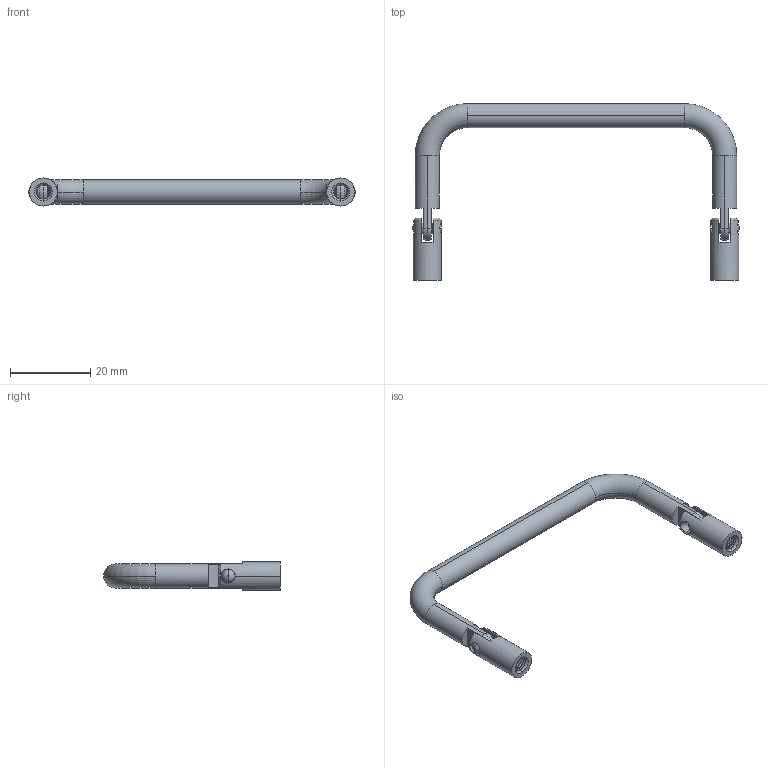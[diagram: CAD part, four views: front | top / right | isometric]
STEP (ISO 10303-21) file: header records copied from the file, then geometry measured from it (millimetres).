
FILE_DESCRIPTION (( 'STEP AP203' ), '1' );
FILE_NAME ('XG01-001-74.STEP', '2023-12-23T02:59:49', ( '' ), ( '' ), 'SwSTEP 2.0', 'SolidWorks 2020', '' );
FILE_SCHEMA (( 'CONFIG_CONTROL_DESIGN' ));
Length unit declared in the file: millimetre
Products named in the file (1): XG01-001-74
Bounding box: 81.2 x 44 x 7 mm (x, y, z)
Volume: 4014.6 mm3; surface area: 3789.1 mm2
Topology: 5 solids, 5 shells, 156 faces, 408 edges, 258 vertices
Faces by surface type: cylinder 86, plane 36, cone 16, torus 8, bspline 6, sphere 4
Entity records: 7817 total; most frequent: CARTESIAN_POINT 4171, ORIENTED_EDGE 816, DIRECTION 710, EDGE_CURVE 408, AXIS2_PLACEMENT_3D 285, VERTEX_POINT 258, EDGE_LOOP 168, ADVANCED_FACE 156
